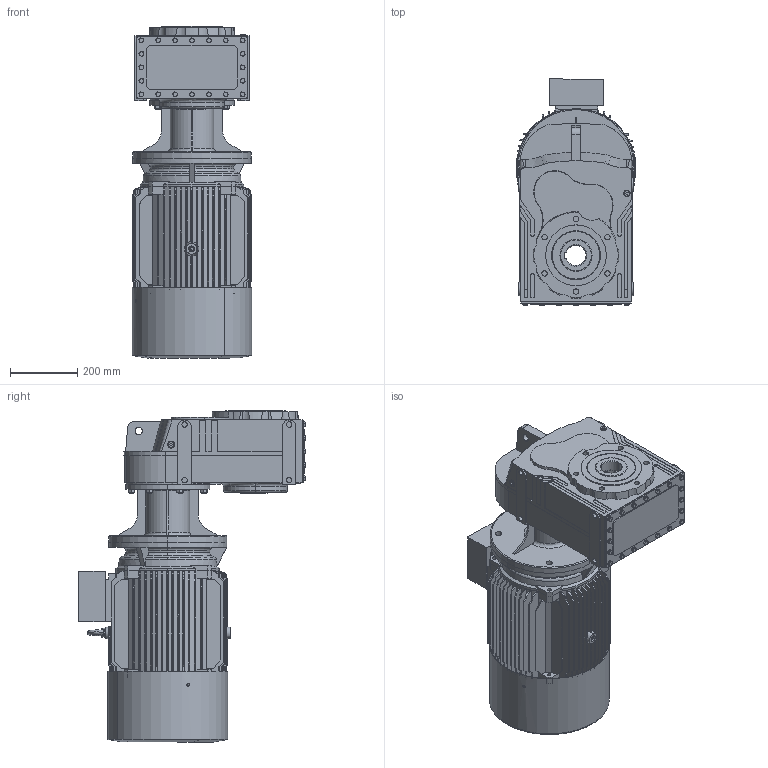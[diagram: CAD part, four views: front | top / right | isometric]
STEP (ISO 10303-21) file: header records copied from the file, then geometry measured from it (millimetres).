
FILE_DESCRIPTION (( 'STEP AP203' ), '1' );
FILE_NAME ('DV572-DV573-3M-180M.STEP', '2019-07-23T12:40:17', ( '' ), ( '' ), 'SwSTEP 2.0', 'SolidWorks 2012', '' );
FILE_SCHEMA (( 'CONFIG_CONTROL_DESIGN' ));
Length unit declared in the file: millimetre
Products named in the file (12): Y2-180MB5+À+¿_-++ñ; M3-180M-FF-B5; DV572-DV573-3M-180M; Y2-180-4.6.8+ª-¯ª­-È®+_-++ñ; Y2-180-4.6.8-ª+---®+_-++ñ; Y2-180+¦i-_-++ñ; Eyebolts GB_GB_FASTENER_SCREWS_FRS M12_1; DN_57_3_0_A-B18_B5_ML59A_0_0_0_0_0_0_0_0_0_0_0_0_M1; Y2-180C++A+¦-¯ª¦+¦_-++ñ; ML59A_Varsayìlan; 43180B5_Varsayìlan; D573_Varsayìlan
Assembly tree (11 placements, depth 3):
  DV572-DV573-3M-180M
    DN_57_3_0_A-B18_B5_ML59A_0_0_0_0_0_0_0_0_0_0_0_0_M1
      D573_Varsayìlan
      43180B5_Varsayìlan
      ML59A_Varsayìlan
    M3-180M-FF-B5
      Y2-180C++A+¦-¯ª¦+¦_-++ñ
      Y2-180+¦i-_-++ñ
      Y2-180-4.6.8-ª+---®+_-++ñ
      Eyebolts GB_GB_FASTENER_SCREWS_FRS M12_1
      Y2-180MB5+À+¿_-++ñ
      Y2-180-4.6.8+ª-¯ª­-È®+_-++ñ
Bounding box: 354.42 x 670.85 x 984 mm (x, y, z)
Volume: 43988415.2 mm3; surface area: 4067602.9 mm2
Topology: 12 solids, 12 shells, 1998 faces, 5098 edges, 3260 vertices
Faces by surface type: plane 899, cylinder 524, cone 503, bspline 36, torus 36
Entity records: 67562 total; most frequent: CARTESIAN_POINT 18199, ORIENTED_EDGE 10196, DIRECTION 9938, EDGE_CURVE 5098, AXIS2_PLACEMENT_3D 3809, VERTEX_POINT 3260, VECTOR 2320, LINE 2320
